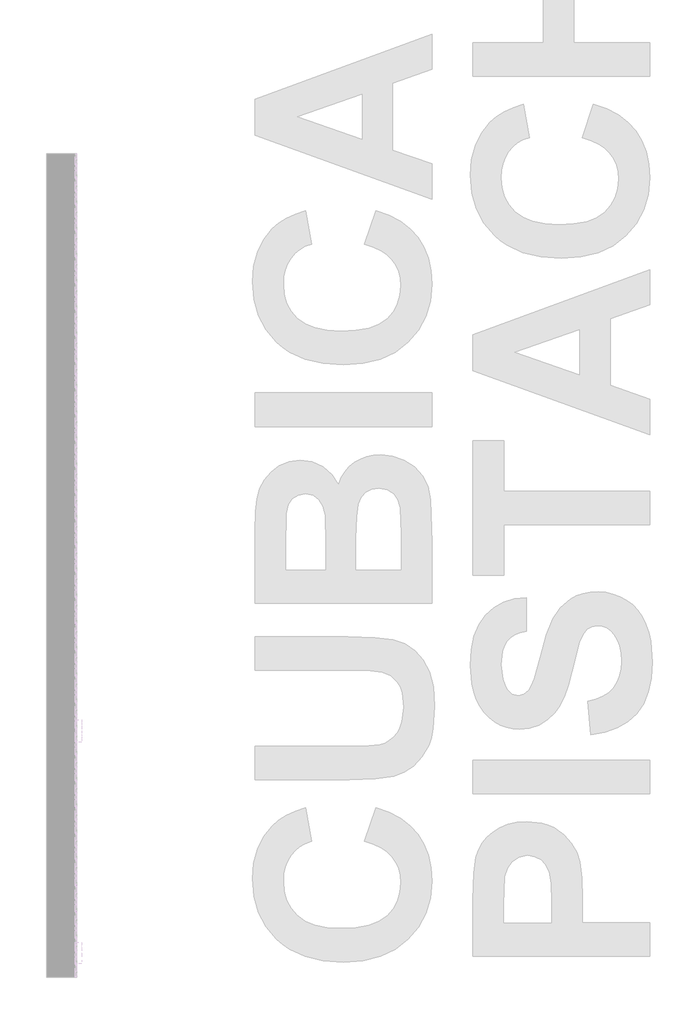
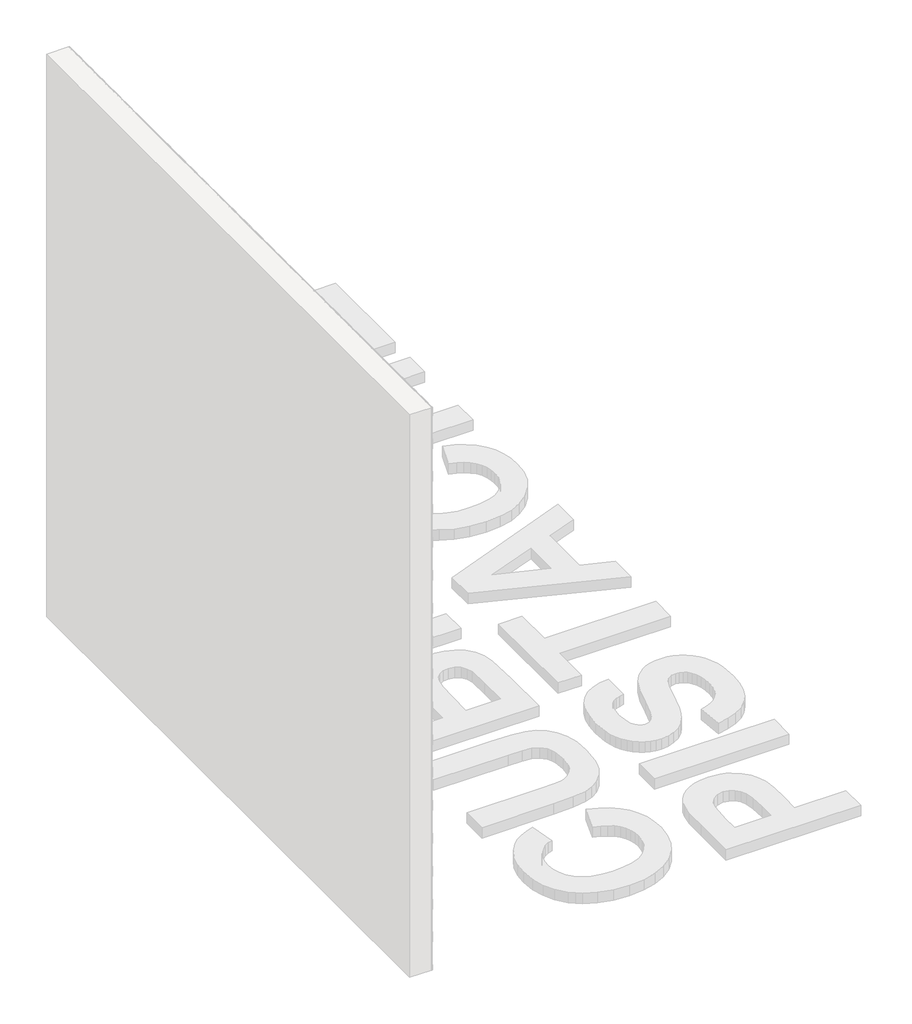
# One storey, part 81 of 121: 145 proxies.
"""IFC4 building model written with IfcOpenShell, lengths in millimetres."""

from ifc_helpers import new_model, si_unit, origin, place, context, project, spatial, transform, mapped, element, save
from components import generic_models_b2b2c5c1, generic_models_9bf73f6f, generic_models_5d175859

model = new_model("IFC4")

# Units and contexts
model_context = context("Model", 3, world=origin())
ifc_project = project(units=[si_unit("LENGTHUNIT", "METRE", prefix="MILLI")], contexts=[model_context])

# Site, building, storey
site = spatial("IfcSite", under=ifc_project)
building = spatial("IfcBuilding", under=site)
storey = spatial("IfcBuildingStorey", under=building, Name="PORTOBELLO - SHOWROOM", Elevation=0.0)

# Proxies
placement = place(None, origin())
generic_models_shape = generic_models_b2b2c5c1(model_context)
element("IfcBuildingElementProxy", 1, Name="PBSHOP - CUBICA PISTACHE 4,8X8,3 : CUBICA PISTACHE - POSIÇÃO 01", ObjectType="PBSHOP - CUBICA PISTACHE 4,8X8,3 : CUBICA PISTACHE - POSIÇÃO 01", at=placement, inside=storey, context=model_context, shape_type="MappedRepresentation", body=[
    mapped(generic_models_shape, transform((150369.5341846, 13841.1993419, 1854.9188494), x_axis=(0.0, 1.0, 0.0), y_axis=(0.0, 0.0, 1.0), z_axis=(1.0, 0.0, 0.0))),
])
element("IfcBuildingElementProxy", 2, Name="PBSHOP - CUBICA PISTACHE 4,8X8,3 : CUBICA PISTACHE - POSIÇÃO 01", ObjectType="PBSHOP - CUBICA PISTACHE 4,8X8,3 : CUBICA PISTACHE - POSIÇÃO 01", at=placement, inside=storey, context=model_context, shape_type="MappedRepresentation", body=[
    mapped(generic_models_shape, transform((150369.5341846, 13932.0386111, 1854.9188494), x_axis=(0.0, 1.0, 0.0), y_axis=(0.0, 0.0, 1.0), z_axis=(1.0, 0.0, 0.0))),
])
element("IfcBuildingElementProxy", 3, Name="PBSHOP - CUBICA PISTACHE 4,8X8,3 : CUBICA PISTACHE - POSIÇÃO 01", ObjectType="PBSHOP - CUBICA PISTACHE 4,8X8,3 : CUBICA PISTACHE - POSIÇÃO 01", at=placement, inside=storey, context=model_context, shape_type="MappedRepresentation", body=[
    mapped(generic_models_shape, transform((150369.5341846, 13069.0655533, 1933.8534878), x_axis=(0.0, 1.0, 0.0), y_axis=(0.0, 0.0, 1.0), z_axis=(1.0, 0.0, 0.0))),
])
element("IfcBuildingElementProxy", 4, Name="PBSHOP - CUBICA PISTACHE 4,8X8,3 : CUBICA PISTACHE - POSIÇÃO 01", ObjectType="PBSHOP - CUBICA PISTACHE 4,8X8,3 : CUBICA PISTACHE - POSIÇÃO 01", at=placement, inside=storey, context=model_context, shape_type="MappedRepresentation", body=[
    mapped(generic_models_shape, transform((150369.5341846, 13159.9048225, 1933.8534878), x_axis=(0.0, 1.0, 0.0), y_axis=(0.0, 0.0, 1.0), z_axis=(1.0, 0.0, 0.0))),
])
element("IfcBuildingElementProxy", 5, Name="PBSHOP - CUBICA PISTACHE 4,8X8,3 : CUBICA PISTACHE - POSIÇÃO 01", ObjectType="PBSHOP - CUBICA PISTACHE 4,8X8,3 : CUBICA PISTACHE - POSIÇÃO 01", at=placement, inside=storey, context=model_context, shape_type="MappedRepresentation", body=[
    mapped(generic_models_shape, transform((150369.5341846, 13250.7440918, 1933.8534878), x_axis=(0.0, 1.0, 0.0), y_axis=(0.0, 0.0, 1.0), z_axis=(1.0, 0.0, 0.0))),
])
element("IfcBuildingElementProxy", 6, Name="PBSHOP - CUBICA PISTACHE 4,8X8,3 : CUBICA PISTACHE - POSIÇÃO 01", ObjectType="PBSHOP - CUBICA PISTACHE 4,8X8,3 : CUBICA PISTACHE - POSIÇÃO 01", at=placement, inside=storey, context=model_context, shape_type="MappedRepresentation", body=[
    mapped(generic_models_shape, transform((150369.5341846, 13341.583361, 1933.8534878), x_axis=(0.0, 1.0, 0.0), y_axis=(0.0, 0.0, 1.0), z_axis=(1.0, 0.0, 0.0))),
])
element("IfcBuildingElementProxy", 7, Name="PBSHOP - CUBICA PISTACHE 4,8X8,3 : CUBICA PISTACHE - POSIÇÃO 01", ObjectType="PBSHOP - CUBICA PISTACHE 4,8X8,3 : CUBICA PISTACHE - POSIÇÃO 01", at=placement, inside=storey, context=model_context, shape_type="MappedRepresentation", body=[
    mapped(generic_models_shape, transform((150369.5341846, 13432.4226303, 1933.8534878), x_axis=(0.0, 1.0, 0.0), y_axis=(0.0, 0.0, 1.0), z_axis=(1.0, 0.0, 0.0))),
])
element("IfcBuildingElementProxy", 8, Name="PBSHOP - CUBICA PISTACHE 4,8X8,3 : CUBICA PISTACHE - POSIÇÃO 01", ObjectType="PBSHOP - CUBICA PISTACHE 4,8X8,3 : CUBICA PISTACHE - POSIÇÃO 01", at=placement, inside=storey, context=model_context, shape_type="MappedRepresentation", body=[
    mapped(generic_models_shape, transform((150369.5341846, 13523.2618995, 1933.8534878), x_axis=(0.0, 1.0, 0.0), y_axis=(0.0, 0.0, 1.0), z_axis=(1.0, 0.0, 0.0))),
])
element("IfcBuildingElementProxy", 9, Name="PBSHOP - CUBICA PISTACHE 4,8X8,3 : CUBICA PISTACHE - POSIÇÃO 01", ObjectType="PBSHOP - CUBICA PISTACHE 4,8X8,3 : CUBICA PISTACHE - POSIÇÃO 01", at=placement, inside=storey, context=model_context, shape_type="MappedRepresentation", body=[
    mapped(generic_models_shape, transform((150369.5341846, 13614.1011688, 1933.8534878), x_axis=(0.0, 1.0, 0.0), y_axis=(0.0, 0.0, 1.0), z_axis=(1.0, 0.0, 0.0))),
])
element("IfcBuildingElementProxy", 10, Name="PBSHOP - CUBICA PISTACHE 4,8X8,3 : CUBICA PISTACHE - POSIÇÃO 01", ObjectType="PBSHOP - CUBICA PISTACHE 4,8X8,3 : CUBICA PISTACHE - POSIÇÃO 01", at=placement, inside=storey, context=model_context, shape_type="MappedRepresentation", body=[
    mapped(generic_models_shape, transform((150369.5341846, 13704.940438, 1933.8534878), x_axis=(0.0, 1.0, 0.0), y_axis=(0.0, 0.0, 1.0), z_axis=(1.0, 0.0, 0.0))),
])
element("IfcBuildingElementProxy", 11, Name="PBSHOP - CUBICA PISTACHE 4,8X8,3 : CUBICA PISTACHE - POSIÇÃO 01", ObjectType="PBSHOP - CUBICA PISTACHE 4,8X8,3 : CUBICA PISTACHE - POSIÇÃO 01", at=placement, inside=storey, context=model_context, shape_type="MappedRepresentation", body=[
    mapped(generic_models_shape, transform((150369.5341846, 13795.7797073, 1933.8534878), x_axis=(0.0, 1.0, 0.0), y_axis=(0.0, 0.0, 1.0), z_axis=(1.0, 0.0, 0.0))),
])
element("IfcBuildingElementProxy", 12, Name="PBSHOP - CUBICA PISTACHE 4,8X8,3 : CUBICA PISTACHE - POSIÇÃO 01", ObjectType="PBSHOP - CUBICA PISTACHE 4,8X8,3 : CUBICA PISTACHE - POSIÇÃO 01", at=placement, inside=storey, context=model_context, shape_type="MappedRepresentation", body=[
    mapped(generic_models_shape, transform((150369.5341846, 13886.6189765, 1933.8534878), x_axis=(0.0, 1.0, 0.0), y_axis=(0.0, 0.0, 1.0), z_axis=(1.0, 0.0, 0.0))),
])
element("IfcBuildingElementProxy", 13, Name="PBSHOP - CUBICA PISTACHE 4,8X8,3 : CUBICA PISTACHE - POSIÇÃO 01", ObjectType="PBSHOP - CUBICA PISTACHE 4,8X8,3 : CUBICA PISTACHE - POSIÇÃO 01", at=placement, inside=storey, context=model_context, shape_type="MappedRepresentation", body=[
    mapped(generic_models_shape, transform((150369.5341846, 13977.4582457, 1933.8534878), x_axis=(0.0, 1.0, 0.0), y_axis=(0.0, 0.0, 1.0), z_axis=(1.0, 0.0, 0.0))),
])
element("IfcBuildingElementProxy", 14, Name="PBSHOP - CUBICA PISTACHE 4,8X8,3 : CUBICA PISTACHE - POSIÇÃO 01", ObjectType="PBSHOP - CUBICA PISTACHE 4,8X8,3 : CUBICA PISTACHE - POSIÇÃO 01", at=placement, inside=storey, context=model_context, shape_type="MappedRepresentation", body=[
    mapped(generic_models_shape, transform((150369.5341846, 13023.6459187, 2012.7881262), x_axis=(0.0, 1.0, 0.0), y_axis=(0.0, 0.0, 1.0), z_axis=(1.0, 0.0, 0.0))),
])
element("IfcBuildingElementProxy", 15, Name="PBSHOP - CUBICA PISTACHE 4,8X8,3 : CUBICA PISTACHE - POSIÇÃO 01", ObjectType="PBSHOP - CUBICA PISTACHE 4,8X8,3 : CUBICA PISTACHE - POSIÇÃO 01", at=placement, inside=storey, context=model_context, shape_type="MappedRepresentation", body=[
    mapped(generic_models_shape, transform((150369.5341846, 13114.4851879, 2012.7881262), x_axis=(0.0, 1.0, 0.0), y_axis=(0.0, 0.0, 1.0), z_axis=(1.0, 0.0, 0.0))),
])
element("IfcBuildingElementProxy", 16, Name="PBSHOP - CUBICA PISTACHE 4,8X8,3 : CUBICA PISTACHE - POSIÇÃO 01", ObjectType="PBSHOP - CUBICA PISTACHE 4,8X8,3 : CUBICA PISTACHE - POSIÇÃO 01", at=placement, inside=storey, context=model_context, shape_type="MappedRepresentation", body=[
    mapped(generic_models_shape, transform((150369.5341846, 13205.3244572, 2012.7881262), x_axis=(0.0, 1.0, 0.0), y_axis=(0.0, 0.0, 1.0), z_axis=(1.0, 0.0, 0.0))),
])
element("IfcBuildingElementProxy", 17, Name="PBSHOP - CUBICA PISTACHE 4,8X8,3 : CUBICA PISTACHE - POSIÇÃO 01", ObjectType="PBSHOP - CUBICA PISTACHE 4,8X8,3 : CUBICA PISTACHE - POSIÇÃO 01", at=placement, inside=storey, context=model_context, shape_type="MappedRepresentation", body=[
    mapped(generic_models_shape, transform((150369.5341846, 13296.1637264, 2012.7881262), x_axis=(0.0, 1.0, 0.0), y_axis=(0.0, 0.0, 1.0), z_axis=(1.0, 0.0, 0.0))),
])
element("IfcBuildingElementProxy", 18, Name="PBSHOP - CUBICA PISTACHE 4,8X8,3 : CUBICA PISTACHE - POSIÇÃO 01", ObjectType="PBSHOP - CUBICA PISTACHE 4,8X8,3 : CUBICA PISTACHE - POSIÇÃO 01", at=placement, inside=storey, context=model_context, shape_type="MappedRepresentation", body=[
    mapped(generic_models_shape, transform((150369.5341846, 13387.0029957, 2012.7881262), x_axis=(0.0, 1.0, 0.0), y_axis=(0.0, 0.0, 1.0), z_axis=(1.0, 0.0, 0.0))),
])
element("IfcBuildingElementProxy", 19, Name="PBSHOP - CUBICA PISTACHE 4,8X8,3 : CUBICA PISTACHE - POSIÇÃO 01", ObjectType="PBSHOP - CUBICA PISTACHE 4,8X8,3 : CUBICA PISTACHE - POSIÇÃO 01", at=placement, inside=storey, context=model_context, shape_type="MappedRepresentation", body=[
    mapped(generic_models_shape, transform((150369.5341846, 13477.8422649, 2012.7881262), x_axis=(0.0, 1.0, 0.0), y_axis=(0.0, 0.0, 1.0), z_axis=(1.0, 0.0, 0.0))),
])
element("IfcBuildingElementProxy", 20, Name="PBSHOP - CUBICA PISTACHE 4,8X8,3 : CUBICA PISTACHE - POSIÇÃO 01", ObjectType="PBSHOP - CUBICA PISTACHE 4,8X8,3 : CUBICA PISTACHE - POSIÇÃO 01", at=placement, inside=storey, context=model_context, shape_type="MappedRepresentation", body=[
    mapped(generic_models_shape, transform((150369.5341846, 13568.6815341, 2012.7881262), x_axis=(0.0, 1.0, 0.0), y_axis=(0.0, 0.0, 1.0), z_axis=(1.0, 0.0, 0.0))),
])
element("IfcBuildingElementProxy", 21, Name="PBSHOP - CUBICA PISTACHE 4,8X8,3 : CUBICA PISTACHE - POSIÇÃO 01", ObjectType="PBSHOP - CUBICA PISTACHE 4,8X8,3 : CUBICA PISTACHE - POSIÇÃO 01", at=placement, inside=storey, context=model_context, shape_type="MappedRepresentation", body=[
    mapped(generic_models_shape, transform((150369.5341846, 13659.5208034, 2012.7881262), x_axis=(0.0, 1.0, 0.0), y_axis=(0.0, 0.0, 1.0), z_axis=(1.0, 0.0, 0.0))),
])
element("IfcBuildingElementProxy", 22, Name="PBSHOP - CUBICA PISTACHE 4,8X8,3 : CUBICA PISTACHE - POSIÇÃO 01", ObjectType="PBSHOP - CUBICA PISTACHE 4,8X8,3 : CUBICA PISTACHE - POSIÇÃO 01", at=placement, inside=storey, context=model_context, shape_type="MappedRepresentation", body=[
    mapped(generic_models_shape, transform((150369.5341846, 13750.3600726, 2012.7881262), x_axis=(0.0, 1.0, 0.0), y_axis=(0.0, 0.0, 1.0), z_axis=(1.0, 0.0, 0.0))),
])
element("IfcBuildingElementProxy", 23, Name="PBSHOP - CUBICA PISTACHE 4,8X8,3 : CUBICA PISTACHE - POSIÇÃO 01", ObjectType="PBSHOP - CUBICA PISTACHE 4,8X8,3 : CUBICA PISTACHE - POSIÇÃO 01", at=placement, inside=storey, context=model_context, shape_type="MappedRepresentation", body=[
    mapped(generic_models_shape, transform((150369.5341846, 13841.1993419, 2012.7881262), x_axis=(0.0, 1.0, 0.0), y_axis=(0.0, 0.0, 1.0), z_axis=(1.0, 0.0, 0.0))),
])
element("IfcBuildingElementProxy", 24, Name="PBSHOP - CUBICA PISTACHE 4,8X8,3 : CUBICA PISTACHE - POSIÇÃO 01", ObjectType="PBSHOP - CUBICA PISTACHE 4,8X8,3 : CUBICA PISTACHE - POSIÇÃO 01", at=placement, inside=storey, context=model_context, shape_type="MappedRepresentation", body=[
    mapped(generic_models_shape, transform((150369.5341846, 13932.0386111, 2012.7881262), x_axis=(0.0, 1.0, 0.0), y_axis=(0.0, 0.0, 1.0), z_axis=(1.0, 0.0, 0.0))),
])
element("IfcBuildingElementProxy", 25, Name="PBSHOP - CUBICA PISTACHE 4,8X8,3 : CUBICA PISTACHE - POSIÇÃO 01", ObjectType="PBSHOP - CUBICA PISTACHE 4,8X8,3 : CUBICA PISTACHE - POSIÇÃO 01", at=placement, inside=storey, context=model_context, shape_type="MappedRepresentation", body=[
    mapped(generic_models_shape, transform((150369.5341846, 13069.0655533, 2091.7227645), x_axis=(0.0, 1.0, 0.0), y_axis=(0.0, 0.0, 1.0), z_axis=(1.0, 0.0, 0.0))),
])
element("IfcBuildingElementProxy", 26, Name="PBSHOP - CUBICA PISTACHE 4,8X8,3 : CUBICA PISTACHE - POSIÇÃO 01", ObjectType="PBSHOP - CUBICA PISTACHE 4,8X8,3 : CUBICA PISTACHE - POSIÇÃO 01", at=placement, inside=storey, context=model_context, shape_type="MappedRepresentation", body=[
    mapped(generic_models_shape, transform((150369.5341846, 13159.9048225, 2091.7227645), x_axis=(0.0, 1.0, 0.0), y_axis=(0.0, 0.0, 1.0), z_axis=(1.0, 0.0, 0.0))),
])
element("IfcBuildingElementProxy", 27, Name="PBSHOP - CUBICA PISTACHE 4,8X8,3 : CUBICA PISTACHE - POSIÇÃO 01", ObjectType="PBSHOP - CUBICA PISTACHE 4,8X8,3 : CUBICA PISTACHE - POSIÇÃO 01", at=placement, inside=storey, context=model_context, shape_type="MappedRepresentation", body=[
    mapped(generic_models_shape, transform((150369.5341846, 13250.7440918, 2091.7227645), x_axis=(0.0, 1.0, 0.0), y_axis=(0.0, 0.0, 1.0), z_axis=(1.0, 0.0, 0.0))),
])
element("IfcBuildingElementProxy", 28, Name="PBSHOP - CUBICA PISTACHE 4,8X8,3 : CUBICA PISTACHE - POSIÇÃO 01", ObjectType="PBSHOP - CUBICA PISTACHE 4,8X8,3 : CUBICA PISTACHE - POSIÇÃO 01", at=placement, inside=storey, context=model_context, shape_type="MappedRepresentation", body=[
    mapped(generic_models_shape, transform((150369.5341846, 13341.583361, 2091.7227645), x_axis=(0.0, 1.0, 0.0), y_axis=(0.0, 0.0, 1.0), z_axis=(1.0, 0.0, 0.0))),
])
element("IfcBuildingElementProxy", 29, Name="PBSHOP - CUBICA PISTACHE 4,8X8,3 : CUBICA PISTACHE - POSIÇÃO 01", ObjectType="PBSHOP - CUBICA PISTACHE 4,8X8,3 : CUBICA PISTACHE - POSIÇÃO 01", at=placement, inside=storey, context=model_context, shape_type="MappedRepresentation", body=[
    mapped(generic_models_shape, transform((150369.5341846, 13432.4226303, 2091.7227645), x_axis=(0.0, 1.0, 0.0), y_axis=(0.0, 0.0, 1.0), z_axis=(1.0, 0.0, 0.0))),
])
element("IfcBuildingElementProxy", 30, Name="PBSHOP - CUBICA PISTACHE 4,8X8,3 : CUBICA PISTACHE - POSIÇÃO 01", ObjectType="PBSHOP - CUBICA PISTACHE 4,8X8,3 : CUBICA PISTACHE - POSIÇÃO 01", at=placement, inside=storey, context=model_context, shape_type="MappedRepresentation", body=[
    mapped(generic_models_shape, transform((150369.5341846, 13523.2618995, 2091.7227645), x_axis=(0.0, 1.0, 0.0), y_axis=(0.0, 0.0, 1.0), z_axis=(1.0, 0.0, 0.0))),
])
element("IfcBuildingElementProxy", 31, Name="PBSHOP - CUBICA PISTACHE 4,8X8,3 : CUBICA PISTACHE - POSIÇÃO 01", ObjectType="PBSHOP - CUBICA PISTACHE 4,8X8,3 : CUBICA PISTACHE - POSIÇÃO 01", at=placement, inside=storey, context=model_context, shape_type="MappedRepresentation", body=[
    mapped(generic_models_shape, transform((150369.5341846, 13614.1011688, 2091.7227645), x_axis=(0.0, 1.0, 0.0), y_axis=(0.0, 0.0, 1.0), z_axis=(1.0, 0.0, 0.0))),
])
element("IfcBuildingElementProxy", 32, Name="PBSHOP - CUBICA PISTACHE 4,8X8,3 : CUBICA PISTACHE - POSIÇÃO 01", ObjectType="PBSHOP - CUBICA PISTACHE 4,8X8,3 : CUBICA PISTACHE - POSIÇÃO 01", at=placement, inside=storey, context=model_context, shape_type="MappedRepresentation", body=[
    mapped(generic_models_shape, transform((150369.5341846, 13704.940438, 2091.7227645), x_axis=(0.0, 1.0, 0.0), y_axis=(0.0, 0.0, 1.0), z_axis=(1.0, 0.0, 0.0))),
])
element("IfcBuildingElementProxy", 33, Name="PBSHOP - CUBICA PISTACHE 4,8X8,3 : CUBICA PISTACHE - POSIÇÃO 01", ObjectType="PBSHOP - CUBICA PISTACHE 4,8X8,3 : CUBICA PISTACHE - POSIÇÃO 01", at=placement, inside=storey, context=model_context, shape_type="MappedRepresentation", body=[
    mapped(generic_models_shape, transform((150369.5341846, 13795.7797073, 2091.7227645), x_axis=(0.0, 1.0, 0.0), y_axis=(0.0, 0.0, 1.0), z_axis=(1.0, 0.0, 0.0))),
])
element("IfcBuildingElementProxy", 34, Name="PBSHOP - CUBICA PISTACHE 4,8X8,3 : CUBICA PISTACHE - POSIÇÃO 01", ObjectType="PBSHOP - CUBICA PISTACHE 4,8X8,3 : CUBICA PISTACHE - POSIÇÃO 01", at=placement, inside=storey, context=model_context, shape_type="MappedRepresentation", body=[
    mapped(generic_models_shape, transform((150369.5341846, 13886.6189765, 2091.7227645), x_axis=(0.0, 1.0, 0.0), y_axis=(0.0, 0.0, 1.0), z_axis=(1.0, 0.0, 0.0))),
])
element("IfcBuildingElementProxy", 35, Name="PBSHOP - CUBICA PISTACHE 4,8X8,3 : CUBICA PISTACHE - POSIÇÃO 01", ObjectType="PBSHOP - CUBICA PISTACHE 4,8X8,3 : CUBICA PISTACHE - POSIÇÃO 01", at=placement, inside=storey, context=model_context, shape_type="MappedRepresentation", body=[
    mapped(generic_models_shape, transform((150369.5341846, 13977.4582457, 2091.7227645), x_axis=(0.0, 1.0, 0.0), y_axis=(0.0, 0.0, 1.0), z_axis=(1.0, 0.0, 0.0))),
])
element("IfcBuildingElementProxy", 36, Name="PBSHOP - CUBICA PISTACHE 4,8X8,3 : CUBICA PISTACHE - POSIÇÃO 01", ObjectType="PBSHOP - CUBICA PISTACHE 4,8X8,3 : CUBICA PISTACHE - POSIÇÃO 01", at=placement, inside=storey, context=model_context, shape_type="MappedRepresentation", body=[
    mapped(generic_models_shape, transform((150369.5341846, 13023.6459187, 2170.6574029), x_axis=(0.0, 1.0, 0.0), y_axis=(0.0, 0.0, 1.0), z_axis=(1.0, 0.0, 0.0))),
])
element("IfcBuildingElementProxy", 37, Name="PBSHOP - CUBICA PISTACHE 4,8X8,3 : CUBICA PISTACHE - POSIÇÃO 01", ObjectType="PBSHOP - CUBICA PISTACHE 4,8X8,3 : CUBICA PISTACHE - POSIÇÃO 01", at=placement, inside=storey, context=model_context, shape_type="MappedRepresentation", body=[
    mapped(generic_models_shape, transform((150369.5341846, 13114.4851879, 2170.6574029), x_axis=(0.0, 1.0, 0.0), y_axis=(0.0, 0.0, 1.0), z_axis=(1.0, 0.0, 0.0))),
])
element("IfcBuildingElementProxy", 38, Name="PBSHOP - CUBICA PISTACHE 4,8X8,3 : CUBICA PISTACHE - POSIÇÃO 01", ObjectType="PBSHOP - CUBICA PISTACHE 4,8X8,3 : CUBICA PISTACHE - POSIÇÃO 01", at=placement, inside=storey, context=model_context, shape_type="MappedRepresentation", body=[
    mapped(generic_models_shape, transform((150369.5341846, 13205.3244572, 2170.6574029), x_axis=(0.0, 1.0, 0.0), y_axis=(0.0, 0.0, 1.0), z_axis=(1.0, 0.0, 0.0))),
])
element("IfcBuildingElementProxy", 39, Name="PBSHOP - CUBICA PISTACHE 4,8X8,3 : CUBICA PISTACHE - POSIÇÃO 01", ObjectType="PBSHOP - CUBICA PISTACHE 4,8X8,3 : CUBICA PISTACHE - POSIÇÃO 01", at=placement, inside=storey, context=model_context, shape_type="MappedRepresentation", body=[
    mapped(generic_models_shape, transform((150369.5341846, 13296.1637264, 2170.6574029), x_axis=(0.0, 1.0, 0.0), y_axis=(0.0, 0.0, 1.0), z_axis=(1.0, 0.0, 0.0))),
])
element("IfcBuildingElementProxy", 40, Name="PBSHOP - CUBICA PISTACHE 4,8X8,3 : CUBICA PISTACHE - POSIÇÃO 01", ObjectType="PBSHOP - CUBICA PISTACHE 4,8X8,3 : CUBICA PISTACHE - POSIÇÃO 01", at=placement, inside=storey, context=model_context, shape_type="MappedRepresentation", body=[
    mapped(generic_models_shape, transform((150369.5341846, 13387.0029957, 2170.6574029), x_axis=(0.0, 1.0, 0.0), y_axis=(0.0, 0.0, 1.0), z_axis=(1.0, 0.0, 0.0))),
])
element("IfcBuildingElementProxy", 41, Name="PBSHOP - CUBICA PISTACHE 4,8X8,3 : CUBICA PISTACHE - POSIÇÃO 01", ObjectType="PBSHOP - CUBICA PISTACHE 4,8X8,3 : CUBICA PISTACHE - POSIÇÃO 01", at=placement, inside=storey, context=model_context, shape_type="MappedRepresentation", body=[
    mapped(generic_models_shape, transform((150369.5341846, 13477.8422649, 2170.6574029), x_axis=(0.0, 1.0, 0.0), y_axis=(0.0, 0.0, 1.0), z_axis=(1.0, 0.0, 0.0))),
])
element("IfcBuildingElementProxy", 42, Name="PBSHOP - CUBICA PISTACHE 4,8X8,3 : CUBICA PISTACHE - POSIÇÃO 01", ObjectType="PBSHOP - CUBICA PISTACHE 4,8X8,3 : CUBICA PISTACHE - POSIÇÃO 01", at=placement, inside=storey, context=model_context, shape_type="MappedRepresentation", body=[
    mapped(generic_models_shape, transform((150369.5341846, 13568.6815341, 2170.6574029), x_axis=(0.0, 1.0, 0.0), y_axis=(0.0, 0.0, 1.0), z_axis=(1.0, 0.0, 0.0))),
])
element("IfcBuildingElementProxy", 43, Name="PBSHOP - CUBICA PISTACHE 4,8X8,3 : CUBICA PISTACHE - POSIÇÃO 01", ObjectType="PBSHOP - CUBICA PISTACHE 4,8X8,3 : CUBICA PISTACHE - POSIÇÃO 01", at=placement, inside=storey, context=model_context, shape_type="MappedRepresentation", body=[
    mapped(generic_models_shape, transform((150369.5341846, 13659.5208034, 2170.6574029), x_axis=(0.0, 1.0, 0.0), y_axis=(0.0, 0.0, 1.0), z_axis=(1.0, 0.0, 0.0))),
])
element("IfcBuildingElementProxy", 44, Name="PBSHOP - CUBICA PISTACHE 4,8X8,3 : CUBICA PISTACHE - POSIÇÃO 01", ObjectType="PBSHOP - CUBICA PISTACHE 4,8X8,3 : CUBICA PISTACHE - POSIÇÃO 01", at=placement, inside=storey, context=model_context, shape_type="MappedRepresentation", body=[
    mapped(generic_models_shape, transform((150369.5341846, 13750.3600726, 2170.6574029), x_axis=(0.0, 1.0, 0.0), y_axis=(0.0, 0.0, 1.0), z_axis=(1.0, 0.0, 0.0))),
])
element("IfcBuildingElementProxy", 45, Name="PBSHOP - CUBICA PISTACHE 4,8X8,3 : CUBICA PISTACHE - POSIÇÃO 01", ObjectType="PBSHOP - CUBICA PISTACHE 4,8X8,3 : CUBICA PISTACHE - POSIÇÃO 01", at=placement, inside=storey, context=model_context, shape_type="MappedRepresentation", body=[
    mapped(generic_models_shape, transform((150369.5341846, 13841.1993419, 2170.6574029), x_axis=(0.0, 1.0, 0.0), y_axis=(0.0, 0.0, 1.0), z_axis=(1.0, 0.0, 0.0))),
])
element("IfcBuildingElementProxy", 46, Name="PBSHOP - CUBICA PISTACHE 4,8X8,3 : CUBICA PISTACHE - POSIÇÃO 01", ObjectType="PBSHOP - CUBICA PISTACHE 4,8X8,3 : CUBICA PISTACHE - POSIÇÃO 01", at=placement, inside=storey, context=model_context, shape_type="MappedRepresentation", body=[
    mapped(generic_models_shape, transform((150369.5341846, 13932.0386111, 2170.6574029), x_axis=(0.0, 1.0, 0.0), y_axis=(0.0, 0.0, 1.0), z_axis=(1.0, 0.0, 0.0))),
])
generic_models_2_shape = generic_models_9bf73f6f(model_context)
element("IfcBuildingElementProxy", 47, Name="PBSHOP - CUBICA PISTACHE 4,8X8,3 : CUBICA PISTACHE - POSIÇÃO 03", ObjectType="PBSHOP - CUBICA PISTACHE 4,8X8,3 : CUBICA PISTACHE - POSIÇÃO 03", at=placement, inside=storey, context=model_context, shape_type="MappedRepresentation", body=[
    mapped(generic_models_2_shape, transform((150369.5341846, 13000.9382605, 1815.4103198), x_axis=(0.0, 1.0, 0.0), y_axis=(0.0, 0.0, 1.0), z_axis=(1.0, 0.0, 0.0))),
])
element("IfcBuildingElementProxy", 48, Name="PBSHOP - CUBICA PISTACHE 4,8X8,3 : CUBICA PISTACHE - POSIÇÃO 03", ObjectType="PBSHOP - CUBICA PISTACHE 4,8X8,3 : CUBICA PISTACHE - POSIÇÃO 03", at=placement, inside=storey, context=model_context, shape_type="MappedRepresentation", body=[
    mapped(generic_models_2_shape, transform((150369.5341846, 13091.7775298, 1815.4103198), x_axis=(0.0, 1.0, 0.0), y_axis=(0.0, 0.0, 1.0), z_axis=(1.0, 0.0, 0.0))),
])
element("IfcBuildingElementProxy", 49, Name="PBSHOP - CUBICA PISTACHE 4,8X8,3 : CUBICA PISTACHE - POSIÇÃO 03", ObjectType="PBSHOP - CUBICA PISTACHE 4,8X8,3 : CUBICA PISTACHE - POSIÇÃO 03", at=placement, inside=storey, context=model_context, shape_type="MappedRepresentation", body=[
    mapped(generic_models_2_shape, transform((150369.5341846, 13182.616799, 1815.4103198), x_axis=(0.0, 1.0, 0.0), y_axis=(0.0, 0.0, 1.0), z_axis=(1.0, 0.0, 0.0))),
])
element("IfcBuildingElementProxy", 50, Name="PBSHOP - CUBICA PISTACHE 4,8X8,3 : CUBICA PISTACHE - POSIÇÃO 03", ObjectType="PBSHOP - CUBICA PISTACHE 4,8X8,3 : CUBICA PISTACHE - POSIÇÃO 03", at=placement, inside=storey, context=model_context, shape_type="MappedRepresentation", body=[
    mapped(generic_models_2_shape, transform((150369.5341846, 13273.4560683, 1815.4103198), x_axis=(0.0, 1.0, 0.0), y_axis=(0.0, 0.0, 1.0), z_axis=(1.0, 0.0, 0.0))),
])
element("IfcBuildingElementProxy", 51, Name="PBSHOP - CUBICA PISTACHE 4,8X8,3 : CUBICA PISTACHE - POSIÇÃO 03", ObjectType="PBSHOP - CUBICA PISTACHE 4,8X8,3 : CUBICA PISTACHE - POSIÇÃO 03", at=placement, inside=storey, context=model_context, shape_type="MappedRepresentation", body=[
    mapped(generic_models_2_shape, transform((150369.5341846, 13364.2953375, 1815.4103198), x_axis=(0.0, 1.0, 0.0), y_axis=(0.0, 0.0, 1.0), z_axis=(1.0, 0.0, 0.0))),
])
element("IfcBuildingElementProxy", 52, Name="PBSHOP - CUBICA PISTACHE 4,8X8,3 : CUBICA PISTACHE - POSIÇÃO 03", ObjectType="PBSHOP - CUBICA PISTACHE 4,8X8,3 : CUBICA PISTACHE - POSIÇÃO 03", at=placement, inside=storey, context=model_context, shape_type="MappedRepresentation", body=[
    mapped(generic_models_2_shape, transform((150369.5341846, 13455.1346068, 1815.4103198), x_axis=(0.0, 1.0, 0.0), y_axis=(0.0, 0.0, 1.0), z_axis=(1.0, 0.0, 0.0))),
])
element("IfcBuildingElementProxy", 53, Name="PBSHOP - CUBICA PISTACHE 4,8X8,3 : CUBICA PISTACHE - POSIÇÃO 03", ObjectType="PBSHOP - CUBICA PISTACHE 4,8X8,3 : CUBICA PISTACHE - POSIÇÃO 03", at=placement, inside=storey, context=model_context, shape_type="MappedRepresentation", body=[
    mapped(generic_models_2_shape, transform((150369.5341846, 13545.973876, 1815.4103198), x_axis=(0.0, 1.0, 0.0), y_axis=(0.0, 0.0, 1.0), z_axis=(1.0, 0.0, 0.0))),
])
element("IfcBuildingElementProxy", 54, Name="PBSHOP - CUBICA PISTACHE 4,8X8,3 : CUBICA PISTACHE - POSIÇÃO 03", ObjectType="PBSHOP - CUBICA PISTACHE 4,8X8,3 : CUBICA PISTACHE - POSIÇÃO 03", at=placement, inside=storey, context=model_context, shape_type="MappedRepresentation", body=[
    mapped(generic_models_2_shape, transform((150369.5341846, 13636.8131452, 1815.4103198), x_axis=(0.0, 1.0, 0.0), y_axis=(0.0, 0.0, 1.0), z_axis=(1.0, 0.0, 0.0))),
])
element("IfcBuildingElementProxy", 55, Name="PBSHOP - CUBICA PISTACHE 4,8X8,3 : CUBICA PISTACHE - POSIÇÃO 03", ObjectType="PBSHOP - CUBICA PISTACHE 4,8X8,3 : CUBICA PISTACHE - POSIÇÃO 03", at=placement, inside=storey, context=model_context, shape_type="MappedRepresentation", body=[
    mapped(generic_models_2_shape, transform((150369.5341846, 13727.6524145, 1815.4103198), x_axis=(0.0, 1.0, 0.0), y_axis=(0.0, 0.0, 1.0), z_axis=(1.0, 0.0, 0.0))),
])
element("IfcBuildingElementProxy", 56, Name="PBSHOP - CUBICA PISTACHE 4,8X8,3 : CUBICA PISTACHE - POSIÇÃO 03", ObjectType="PBSHOP - CUBICA PISTACHE 4,8X8,3 : CUBICA PISTACHE - POSIÇÃO 03", at=placement, inside=storey, context=model_context, shape_type="MappedRepresentation", body=[
    mapped(generic_models_2_shape, transform((150369.5341846, 13818.4916837, 1815.4103198), x_axis=(0.0, 1.0, 0.0), y_axis=(0.0, 0.0, 1.0), z_axis=(1.0, 0.0, 0.0))),
])
element("IfcBuildingElementProxy", 57, Name="PBSHOP - CUBICA PISTACHE 4,8X8,3 : CUBICA PISTACHE - POSIÇÃO 03", ObjectType="PBSHOP - CUBICA PISTACHE 4,8X8,3 : CUBICA PISTACHE - POSIÇÃO 03", at=placement, inside=storey, context=model_context, shape_type="MappedRepresentation", body=[
    mapped(generic_models_2_shape, transform((150369.5341846, 13909.330953, 1815.4103198), x_axis=(0.0, 1.0, 0.0), y_axis=(0.0, 0.0, 1.0), z_axis=(1.0, 0.0, 0.0))),
])
element("IfcBuildingElementProxy", 58, Name="PBSHOP - CUBICA PISTACHE 4,8X8,3 : CUBICA PISTACHE - POSIÇÃO 03", ObjectType="PBSHOP - CUBICA PISTACHE 4,8X8,3 : CUBICA PISTACHE - POSIÇÃO 03", at=placement, inside=storey, context=model_context, shape_type="MappedRepresentation", body=[
    mapped(generic_models_2_shape, transform((150369.5341846, 13046.3578952, 1894.3449582), x_axis=(0.0, 1.0, 0.0), y_axis=(0.0, 0.0, 1.0), z_axis=(1.0, 0.0, 0.0))),
])
element("IfcBuildingElementProxy", 59, Name="PBSHOP - CUBICA PISTACHE 4,8X8,3 : CUBICA PISTACHE - POSIÇÃO 03", ObjectType="PBSHOP - CUBICA PISTACHE 4,8X8,3 : CUBICA PISTACHE - POSIÇÃO 03", at=placement, inside=storey, context=model_context, shape_type="MappedRepresentation", body=[
    mapped(generic_models_2_shape, transform((150369.5341846, 13137.1971644, 1894.3449582), x_axis=(0.0, 1.0, 0.0), y_axis=(0.0, 0.0, 1.0), z_axis=(1.0, 0.0, 0.0))),
])
element("IfcBuildingElementProxy", 60, Name="PBSHOP - CUBICA PISTACHE 4,8X8,3 : CUBICA PISTACHE - POSIÇÃO 03", ObjectType="PBSHOP - CUBICA PISTACHE 4,8X8,3 : CUBICA PISTACHE - POSIÇÃO 03", at=placement, inside=storey, context=model_context, shape_type="MappedRepresentation", body=[
    mapped(generic_models_2_shape, transform((150369.5341846, 13228.0364336, 1894.3449582), x_axis=(0.0, 1.0, 0.0), y_axis=(0.0, 0.0, 1.0), z_axis=(1.0, 0.0, 0.0))),
])
element("IfcBuildingElementProxy", 61, Name="PBSHOP - CUBICA PISTACHE 4,8X8,3 : CUBICA PISTACHE - POSIÇÃO 03", ObjectType="PBSHOP - CUBICA PISTACHE 4,8X8,3 : CUBICA PISTACHE - POSIÇÃO 03", at=placement, inside=storey, context=model_context, shape_type="MappedRepresentation", body=[
    mapped(generic_models_2_shape, transform((150369.5341846, 13318.8757029, 1894.3449582), x_axis=(0.0, 1.0, 0.0), y_axis=(0.0, 0.0, 1.0), z_axis=(1.0, 0.0, 0.0))),
])
element("IfcBuildingElementProxy", 62, Name="PBSHOP - CUBICA PISTACHE 4,8X8,3 : CUBICA PISTACHE - POSIÇÃO 03", ObjectType="PBSHOP - CUBICA PISTACHE 4,8X8,3 : CUBICA PISTACHE - POSIÇÃO 03", at=placement, inside=storey, context=model_context, shape_type="MappedRepresentation", body=[
    mapped(generic_models_2_shape, transform((150369.5341846, 13409.7149721, 1894.3449582), x_axis=(0.0, 1.0, 0.0), y_axis=(0.0, 0.0, 1.0), z_axis=(1.0, 0.0, 0.0))),
])
element("IfcBuildingElementProxy", 63, Name="PBSHOP - CUBICA PISTACHE 4,8X8,3 : CUBICA PISTACHE - POSIÇÃO 03", ObjectType="PBSHOP - CUBICA PISTACHE 4,8X8,3 : CUBICA PISTACHE - POSIÇÃO 03", at=placement, inside=storey, context=model_context, shape_type="MappedRepresentation", body=[
    mapped(generic_models_2_shape, transform((150369.5341846, 13500.5542414, 1894.3449582), x_axis=(0.0, 1.0, 0.0), y_axis=(0.0, 0.0, 1.0), z_axis=(1.0, 0.0, 0.0))),
])
element("IfcBuildingElementProxy", 64, Name="PBSHOP - CUBICA PISTACHE 4,8X8,3 : CUBICA PISTACHE - POSIÇÃO 03", ObjectType="PBSHOP - CUBICA PISTACHE 4,8X8,3 : CUBICA PISTACHE - POSIÇÃO 03", at=placement, inside=storey, context=model_context, shape_type="MappedRepresentation", body=[
    mapped(generic_models_2_shape, transform((150369.5341846, 13591.3935106, 1894.3449582), x_axis=(0.0, 1.0, 0.0), y_axis=(0.0, 0.0, 1.0), z_axis=(1.0, 0.0, 0.0))),
])
element("IfcBuildingElementProxy", 65, Name="PBSHOP - CUBICA PISTACHE 4,8X8,3 : CUBICA PISTACHE - POSIÇÃO 03", ObjectType="PBSHOP - CUBICA PISTACHE 4,8X8,3 : CUBICA PISTACHE - POSIÇÃO 03", at=placement, inside=storey, context=model_context, shape_type="MappedRepresentation", body=[
    mapped(generic_models_2_shape, transform((150369.5341846, 13682.2327799, 1894.3449582), x_axis=(0.0, 1.0, 0.0), y_axis=(0.0, 0.0, 1.0), z_axis=(1.0, 0.0, 0.0))),
])
element("IfcBuildingElementProxy", 66, Name="PBSHOP - CUBICA PISTACHE 4,8X8,3 : CUBICA PISTACHE - POSIÇÃO 03", ObjectType="PBSHOP - CUBICA PISTACHE 4,8X8,3 : CUBICA PISTACHE - POSIÇÃO 03", at=placement, inside=storey, context=model_context, shape_type="MappedRepresentation", body=[
    mapped(generic_models_2_shape, transform((150369.5341846, 13773.0720491, 1894.3449582), x_axis=(0.0, 1.0, 0.0), y_axis=(0.0, 0.0, 1.0), z_axis=(1.0, 0.0, 0.0))),
])
element("IfcBuildingElementProxy", 67, Name="PBSHOP - CUBICA PISTACHE 4,8X8,3 : CUBICA PISTACHE - POSIÇÃO 03", ObjectType="PBSHOP - CUBICA PISTACHE 4,8X8,3 : CUBICA PISTACHE - POSIÇÃO 03", at=placement, inside=storey, context=model_context, shape_type="MappedRepresentation", body=[
    mapped(generic_models_2_shape, transform((150369.5341846, 13863.9113184, 1894.3449582), x_axis=(0.0, 1.0, 0.0), y_axis=(0.0, 0.0, 1.0), z_axis=(1.0, 0.0, 0.0))),
])
element("IfcBuildingElementProxy", 68, Name="PBSHOP - CUBICA PISTACHE 4,8X8,3 : CUBICA PISTACHE - POSIÇÃO 03", ObjectType="PBSHOP - CUBICA PISTACHE 4,8X8,3 : CUBICA PISTACHE - POSIÇÃO 03", at=placement, inside=storey, context=model_context, shape_type="MappedRepresentation", body=[
    mapped(generic_models_2_shape, transform((150369.5341846, 13954.7505876, 1894.3449582), x_axis=(0.0, 1.0, 0.0), y_axis=(0.0, 0.0, 1.0), z_axis=(1.0, 0.0, 0.0))),
])
element("IfcBuildingElementProxy", 69, Name="PBSHOP - CUBICA PISTACHE 4,8X8,3 : CUBICA PISTACHE - POSIÇÃO 03", ObjectType="PBSHOP - CUBICA PISTACHE 4,8X8,3 : CUBICA PISTACHE - POSIÇÃO 03", at=placement, inside=storey, context=model_context, shape_type="MappedRepresentation", body=[
    mapped(generic_models_2_shape, transform((150369.5341846, 13000.9382605, 1973.2795966), x_axis=(0.0, 1.0, 0.0), y_axis=(0.0, 0.0, 1.0), z_axis=(1.0, 0.0, 0.0))),
])
element("IfcBuildingElementProxy", 70, Name="PBSHOP - CUBICA PISTACHE 4,8X8,3 : CUBICA PISTACHE - POSIÇÃO 03", ObjectType="PBSHOP - CUBICA PISTACHE 4,8X8,3 : CUBICA PISTACHE - POSIÇÃO 03", at=placement, inside=storey, context=model_context, shape_type="MappedRepresentation", body=[
    mapped(generic_models_2_shape, transform((150369.5341846, 13091.7775298, 1973.2795966), x_axis=(0.0, 1.0, 0.0), y_axis=(0.0, 0.0, 1.0), z_axis=(1.0, 0.0, 0.0))),
])
element("IfcBuildingElementProxy", 71, Name="PBSHOP - CUBICA PISTACHE 4,8X8,3 : CUBICA PISTACHE - POSIÇÃO 03", ObjectType="PBSHOP - CUBICA PISTACHE 4,8X8,3 : CUBICA PISTACHE - POSIÇÃO 03", at=placement, inside=storey, context=model_context, shape_type="MappedRepresentation", body=[
    mapped(generic_models_2_shape, transform((150369.5341846, 13182.616799, 1973.2795966), x_axis=(0.0, 1.0, 0.0), y_axis=(0.0, 0.0, 1.0), z_axis=(1.0, 0.0, 0.0))),
])
element("IfcBuildingElementProxy", 72, Name="PBSHOP - CUBICA PISTACHE 4,8X8,3 : CUBICA PISTACHE - POSIÇÃO 03", ObjectType="PBSHOP - CUBICA PISTACHE 4,8X8,3 : CUBICA PISTACHE - POSIÇÃO 03", at=placement, inside=storey, context=model_context, shape_type="MappedRepresentation", body=[
    mapped(generic_models_2_shape, transform((150369.5341846, 13273.4560683, 1973.2795966), x_axis=(0.0, 1.0, 0.0), y_axis=(0.0, 0.0, 1.0), z_axis=(1.0, 0.0, 0.0))),
])
element("IfcBuildingElementProxy", 73, Name="PBSHOP - CUBICA PISTACHE 4,8X8,3 : CUBICA PISTACHE - POSIÇÃO 03", ObjectType="PBSHOP - CUBICA PISTACHE 4,8X8,3 : CUBICA PISTACHE - POSIÇÃO 03", at=placement, inside=storey, context=model_context, shape_type="MappedRepresentation", body=[
    mapped(generic_models_2_shape, transform((150369.5341846, 13364.2953375, 1973.2795966), x_axis=(0.0, 1.0, 0.0), y_axis=(0.0, 0.0, 1.0), z_axis=(1.0, 0.0, 0.0))),
])
element("IfcBuildingElementProxy", 74, Name="PBSHOP - CUBICA PISTACHE 4,8X8,3 : CUBICA PISTACHE - POSIÇÃO 03", ObjectType="PBSHOP - CUBICA PISTACHE 4,8X8,3 : CUBICA PISTACHE - POSIÇÃO 03", at=placement, inside=storey, context=model_context, shape_type="MappedRepresentation", body=[
    mapped(generic_models_2_shape, transform((150369.5341846, 13455.1346068, 1973.2795966), x_axis=(0.0, 1.0, 0.0), y_axis=(0.0, 0.0, 1.0), z_axis=(1.0, 0.0, 0.0))),
])
element("IfcBuildingElementProxy", 75, Name="PBSHOP - CUBICA PISTACHE 4,8X8,3 : CUBICA PISTACHE - POSIÇÃO 03", ObjectType="PBSHOP - CUBICA PISTACHE 4,8X8,3 : CUBICA PISTACHE - POSIÇÃO 03", at=placement, inside=storey, context=model_context, shape_type="MappedRepresentation", body=[
    mapped(generic_models_2_shape, transform((150369.5341846, 13545.973876, 1973.2795966), x_axis=(0.0, 1.0, 0.0), y_axis=(0.0, 0.0, 1.0), z_axis=(1.0, 0.0, 0.0))),
])
element("IfcBuildingElementProxy", 76, Name="PBSHOP - CUBICA PISTACHE 4,8X8,3 : CUBICA PISTACHE - POSIÇÃO 03", ObjectType="PBSHOP - CUBICA PISTACHE 4,8X8,3 : CUBICA PISTACHE - POSIÇÃO 03", at=placement, inside=storey, context=model_context, shape_type="MappedRepresentation", body=[
    mapped(generic_models_2_shape, transform((150369.5341846, 13636.8131452, 1973.2795966), x_axis=(0.0, 1.0, 0.0), y_axis=(0.0, 0.0, 1.0), z_axis=(1.0, 0.0, 0.0))),
])
element("IfcBuildingElementProxy", 77, Name="PBSHOP - CUBICA PISTACHE 4,8X8,3 : CUBICA PISTACHE - POSIÇÃO 03", ObjectType="PBSHOP - CUBICA PISTACHE 4,8X8,3 : CUBICA PISTACHE - POSIÇÃO 03", at=placement, inside=storey, context=model_context, shape_type="MappedRepresentation", body=[
    mapped(generic_models_2_shape, transform((150369.5341846, 13727.6524145, 1973.2795966), x_axis=(0.0, 1.0, 0.0), y_axis=(0.0, 0.0, 1.0), z_axis=(1.0, 0.0, 0.0))),
])
element("IfcBuildingElementProxy", 78, Name="PBSHOP - CUBICA PISTACHE 4,8X8,3 : CUBICA PISTACHE - POSIÇÃO 03", ObjectType="PBSHOP - CUBICA PISTACHE 4,8X8,3 : CUBICA PISTACHE - POSIÇÃO 03", at=placement, inside=storey, context=model_context, shape_type="MappedRepresentation", body=[
    mapped(generic_models_2_shape, transform((150369.5341846, 13818.4916837, 1973.2795966), x_axis=(0.0, 1.0, 0.0), y_axis=(0.0, 0.0, 1.0), z_axis=(1.0, 0.0, 0.0))),
])
element("IfcBuildingElementProxy", 79, Name="PBSHOP - CUBICA PISTACHE 4,8X8,3 : CUBICA PISTACHE - POSIÇÃO 03", ObjectType="PBSHOP - CUBICA PISTACHE 4,8X8,3 : CUBICA PISTACHE - POSIÇÃO 03", at=placement, inside=storey, context=model_context, shape_type="MappedRepresentation", body=[
    mapped(generic_models_2_shape, transform((150369.5341846, 13909.330953, 1973.2795966), x_axis=(0.0, 1.0, 0.0), y_axis=(0.0, 0.0, 1.0), z_axis=(1.0, 0.0, 0.0))),
])
element("IfcBuildingElementProxy", 80, Name="PBSHOP - CUBICA PISTACHE 4,8X8,3 : CUBICA PISTACHE - POSIÇÃO 03", ObjectType="PBSHOP - CUBICA PISTACHE 4,8X8,3 : CUBICA PISTACHE - POSIÇÃO 03", at=placement, inside=storey, context=model_context, shape_type="MappedRepresentation", body=[
    mapped(generic_models_2_shape, transform((150369.5341846, 13046.3578952, 2052.2142349), x_axis=(0.0, 1.0, 0.0), y_axis=(0.0, 0.0, 1.0), z_axis=(1.0, 0.0, 0.0))),
])
element("IfcBuildingElementProxy", 81, Name="PBSHOP - CUBICA PISTACHE 4,8X8,3 : CUBICA PISTACHE - POSIÇÃO 03", ObjectType="PBSHOP - CUBICA PISTACHE 4,8X8,3 : CUBICA PISTACHE - POSIÇÃO 03", at=placement, inside=storey, context=model_context, shape_type="MappedRepresentation", body=[
    mapped(generic_models_2_shape, transform((150369.5341846, 13137.1971644, 2052.2142349), x_axis=(0.0, 1.0, 0.0), y_axis=(0.0, 0.0, 1.0), z_axis=(1.0, 0.0, 0.0))),
])
element("IfcBuildingElementProxy", 82, Name="PBSHOP - CUBICA PISTACHE 4,8X8,3 : CUBICA PISTACHE - POSIÇÃO 03", ObjectType="PBSHOP - CUBICA PISTACHE 4,8X8,3 : CUBICA PISTACHE - POSIÇÃO 03", at=placement, inside=storey, context=model_context, shape_type="MappedRepresentation", body=[
    mapped(generic_models_2_shape, transform((150369.5341846, 13228.0364336, 2052.2142349), x_axis=(0.0, 1.0, 0.0), y_axis=(0.0, 0.0, 1.0), z_axis=(1.0, 0.0, 0.0))),
])
element("IfcBuildingElementProxy", 83, Name="PBSHOP - CUBICA PISTACHE 4,8X8,3 : CUBICA PISTACHE - POSIÇÃO 03", ObjectType="PBSHOP - CUBICA PISTACHE 4,8X8,3 : CUBICA PISTACHE - POSIÇÃO 03", at=placement, inside=storey, context=model_context, shape_type="MappedRepresentation", body=[
    mapped(generic_models_2_shape, transform((150369.5341846, 13318.8757029, 2052.2142349), x_axis=(0.0, 1.0, 0.0), y_axis=(0.0, 0.0, 1.0), z_axis=(1.0, 0.0, 0.0))),
])
element("IfcBuildingElementProxy", 84, Name="PBSHOP - CUBICA PISTACHE 4,8X8,3 : CUBICA PISTACHE - POSIÇÃO 03", ObjectType="PBSHOP - CUBICA PISTACHE 4,8X8,3 : CUBICA PISTACHE - POSIÇÃO 03", at=placement, inside=storey, context=model_context, shape_type="MappedRepresentation", body=[
    mapped(generic_models_2_shape, transform((150369.5341846, 13409.7149721, 2052.2142349), x_axis=(0.0, 1.0, 0.0), y_axis=(0.0, 0.0, 1.0), z_axis=(1.0, 0.0, 0.0))),
])
element("IfcBuildingElementProxy", 85, Name="PBSHOP - CUBICA PISTACHE 4,8X8,3 : CUBICA PISTACHE - POSIÇÃO 03", ObjectType="PBSHOP - CUBICA PISTACHE 4,8X8,3 : CUBICA PISTACHE - POSIÇÃO 03", at=placement, inside=storey, context=model_context, shape_type="MappedRepresentation", body=[
    mapped(generic_models_2_shape, transform((150369.5341846, 13500.5542414, 2052.2142349), x_axis=(0.0, 1.0, 0.0), y_axis=(0.0, 0.0, 1.0), z_axis=(1.0, 0.0, 0.0))),
])
element("IfcBuildingElementProxy", 86, Name="PBSHOP - CUBICA PISTACHE 4,8X8,3 : CUBICA PISTACHE - POSIÇÃO 03", ObjectType="PBSHOP - CUBICA PISTACHE 4,8X8,3 : CUBICA PISTACHE - POSIÇÃO 03", at=placement, inside=storey, context=model_context, shape_type="MappedRepresentation", body=[
    mapped(generic_models_2_shape, transform((150369.5341846, 13591.3935106, 2052.2142349), x_axis=(0.0, 1.0, 0.0), y_axis=(0.0, 0.0, 1.0), z_axis=(1.0, 0.0, 0.0))),
])
element("IfcBuildingElementProxy", 87, Name="PBSHOP - CUBICA PISTACHE 4,8X8,3 : CUBICA PISTACHE - POSIÇÃO 03", ObjectType="PBSHOP - CUBICA PISTACHE 4,8X8,3 : CUBICA PISTACHE - POSIÇÃO 03", at=placement, inside=storey, context=model_context, shape_type="MappedRepresentation", body=[
    mapped(generic_models_2_shape, transform((150369.5341846, 13682.2327799, 2052.2142349), x_axis=(0.0, 1.0, 0.0), y_axis=(0.0, 0.0, 1.0), z_axis=(1.0, 0.0, 0.0))),
])
element("IfcBuildingElementProxy", 88, Name="PBSHOP - CUBICA PISTACHE 4,8X8,3 : CUBICA PISTACHE - POSIÇÃO 03", ObjectType="PBSHOP - CUBICA PISTACHE 4,8X8,3 : CUBICA PISTACHE - POSIÇÃO 03", at=placement, inside=storey, context=model_context, shape_type="MappedRepresentation", body=[
    mapped(generic_models_2_shape, transform((150369.5341846, 13773.0720491, 2052.2142349), x_axis=(0.0, 1.0, 0.0), y_axis=(0.0, 0.0, 1.0), z_axis=(1.0, 0.0, 0.0))),
])
element("IfcBuildingElementProxy", 89, Name="PBSHOP - CUBICA PISTACHE 4,8X8,3 : CUBICA PISTACHE - POSIÇÃO 03", ObjectType="PBSHOP - CUBICA PISTACHE 4,8X8,3 : CUBICA PISTACHE - POSIÇÃO 03", at=placement, inside=storey, context=model_context, shape_type="MappedRepresentation", body=[
    mapped(generic_models_2_shape, transform((150369.5341846, 13863.9113184, 2052.2142349), x_axis=(0.0, 1.0, 0.0), y_axis=(0.0, 0.0, 1.0), z_axis=(1.0, 0.0, 0.0))),
])
element("IfcBuildingElementProxy", 90, Name="PBSHOP - CUBICA PISTACHE 4,8X8,3 : CUBICA PISTACHE - POSIÇÃO 03", ObjectType="PBSHOP - CUBICA PISTACHE 4,8X8,3 : CUBICA PISTACHE - POSIÇÃO 03", at=placement, inside=storey, context=model_context, shape_type="MappedRepresentation", body=[
    mapped(generic_models_2_shape, transform((150369.5341846, 13954.7505876, 2052.2142349), x_axis=(0.0, 1.0, 0.0), y_axis=(0.0, 0.0, 1.0), z_axis=(1.0, 0.0, 0.0))),
])
element("IfcBuildingElementProxy", 91, Name="PBSHOP - CUBICA PISTACHE 4,8X8,3 : CUBICA PISTACHE - POSIÇÃO 03", ObjectType="PBSHOP - CUBICA PISTACHE 4,8X8,3 : CUBICA PISTACHE - POSIÇÃO 03", at=placement, inside=storey, context=model_context, shape_type="MappedRepresentation", body=[
    mapped(generic_models_2_shape, transform((150369.5341846, 13000.9382605, 2131.1488733), x_axis=(0.0, 1.0, 0.0), y_axis=(0.0, 0.0, 1.0), z_axis=(1.0, 0.0, 0.0))),
])
element("IfcBuildingElementProxy", 92, Name="PBSHOP - CUBICA PISTACHE 4,8X8,3 : CUBICA PISTACHE - POSIÇÃO 03", ObjectType="PBSHOP - CUBICA PISTACHE 4,8X8,3 : CUBICA PISTACHE - POSIÇÃO 03", at=placement, inside=storey, context=model_context, shape_type="MappedRepresentation", body=[
    mapped(generic_models_2_shape, transform((150369.5341846, 13091.7775298, 2131.1488733), x_axis=(0.0, 1.0, 0.0), y_axis=(0.0, 0.0, 1.0), z_axis=(1.0, 0.0, 0.0))),
])
element("IfcBuildingElementProxy", 93, Name="PBSHOP - CUBICA PISTACHE 4,8X8,3 : CUBICA PISTACHE - POSIÇÃO 03", ObjectType="PBSHOP - CUBICA PISTACHE 4,8X8,3 : CUBICA PISTACHE - POSIÇÃO 03", at=placement, inside=storey, context=model_context, shape_type="MappedRepresentation", body=[
    mapped(generic_models_2_shape, transform((150369.5341846, 13182.616799, 2131.1488733), x_axis=(0.0, 1.0, 0.0), y_axis=(0.0, 0.0, 1.0), z_axis=(1.0, 0.0, 0.0))),
])
element("IfcBuildingElementProxy", 94, Name="PBSHOP - CUBICA PISTACHE 4,8X8,3 : CUBICA PISTACHE - POSIÇÃO 03", ObjectType="PBSHOP - CUBICA PISTACHE 4,8X8,3 : CUBICA PISTACHE - POSIÇÃO 03", at=placement, inside=storey, context=model_context, shape_type="MappedRepresentation", body=[
    mapped(generic_models_2_shape, transform((150369.5341846, 13273.4560683, 2131.1488733), x_axis=(0.0, 1.0, 0.0), y_axis=(0.0, 0.0, 1.0), z_axis=(1.0, 0.0, 0.0))),
])
element("IfcBuildingElementProxy", 95, Name="PBSHOP - CUBICA PISTACHE 4,8X8,3 : CUBICA PISTACHE - POSIÇÃO 03", ObjectType="PBSHOP - CUBICA PISTACHE 4,8X8,3 : CUBICA PISTACHE - POSIÇÃO 03", at=placement, inside=storey, context=model_context, shape_type="MappedRepresentation", body=[
    mapped(generic_models_2_shape, transform((150369.5341846, 13364.2953375, 2131.1488733), x_axis=(0.0, 1.0, 0.0), y_axis=(0.0, 0.0, 1.0), z_axis=(1.0, 0.0, 0.0))),
])
element("IfcBuildingElementProxy", 96, Name="PBSHOP - CUBICA PISTACHE 4,8X8,3 : CUBICA PISTACHE - POSIÇÃO 03", ObjectType="PBSHOP - CUBICA PISTACHE 4,8X8,3 : CUBICA PISTACHE - POSIÇÃO 03", at=placement, inside=storey, context=model_context, shape_type="MappedRepresentation", body=[
    mapped(generic_models_2_shape, transform((150369.5341846, 13455.1346068, 2131.1488733), x_axis=(0.0, 1.0, 0.0), y_axis=(0.0, 0.0, 1.0), z_axis=(1.0, 0.0, 0.0))),
])
element("IfcBuildingElementProxy", 97, Name="PBSHOP - CUBICA PISTACHE 4,8X8,3 : CUBICA PISTACHE - POSIÇÃO 03", ObjectType="PBSHOP - CUBICA PISTACHE 4,8X8,3 : CUBICA PISTACHE - POSIÇÃO 03", at=placement, inside=storey, context=model_context, shape_type="MappedRepresentation", body=[
    mapped(generic_models_2_shape, transform((150369.5341846, 13545.973876, 2131.1488733), x_axis=(0.0, 1.0, 0.0), y_axis=(0.0, 0.0, 1.0), z_axis=(1.0, 0.0, 0.0))),
])
element("IfcBuildingElementProxy", 98, Name="PBSHOP - CUBICA PISTACHE 4,8X8,3 : CUBICA PISTACHE - POSIÇÃO 03", ObjectType="PBSHOP - CUBICA PISTACHE 4,8X8,3 : CUBICA PISTACHE - POSIÇÃO 03", at=placement, inside=storey, context=model_context, shape_type="MappedRepresentation", body=[
    mapped(generic_models_2_shape, transform((150369.5341846, 13636.8131452, 2131.1488733), x_axis=(0.0, 1.0, 0.0), y_axis=(0.0, 0.0, 1.0), z_axis=(1.0, 0.0, 0.0))),
])
element("IfcBuildingElementProxy", 99, Name="PBSHOP - CUBICA PISTACHE 4,8X8,3 : CUBICA PISTACHE - POSIÇÃO 03", ObjectType="PBSHOP - CUBICA PISTACHE 4,8X8,3 : CUBICA PISTACHE - POSIÇÃO 03", at=placement, inside=storey, context=model_context, shape_type="MappedRepresentation", body=[
    mapped(generic_models_2_shape, transform((150369.5341846, 13727.6524145, 2131.1488733), x_axis=(0.0, 1.0, 0.0), y_axis=(0.0, 0.0, 1.0), z_axis=(1.0, 0.0, 0.0))),
])
generic_models_3_shape = generic_models_5d175859(model_context)
element("IfcBuildingElementProxy", 100, Name="PBSHOP - CUBICA PISTACHE 4,8X8,3 : CUBICA PISTACHE - POSIÇÃO 01", ObjectType="PBSHOP - CUBICA PISTACHE 4,8X8,3 : CUBICA PISTACHE - POSIÇÃO 01", at=placement, inside=storey, context=model_context, shape_type="MappedRepresentation", body=[
    mapped(generic_models_3_shape, transform((150369.5341846, 13886.6232948, 1854.9188494), x_axis=(0.0, -1.0, 0.0), y_axis=(0.0, 0.0, -1.0), z_axis=(1.0, 0.0, 0.0))),
])
element("IfcBuildingElementProxy", 101, Name="PBSHOP - CUBICA PISTACHE 4,8X8,3 : CUBICA PISTACHE - POSIÇÃO 01", ObjectType="PBSHOP - CUBICA PISTACHE 4,8X8,3 : CUBICA PISTACHE - POSIÇÃO 01", at=placement, inside=storey, context=model_context, shape_type="MappedRepresentation", body=[
    mapped(generic_models_3_shape, transform((150369.5341846, 13977.4625641, 1854.9188494), x_axis=(0.0, -1.0, 0.0), y_axis=(0.0, 0.0, -1.0), z_axis=(1.0, 0.0, 0.0))),
])
element("IfcBuildingElementProxy", 102, Name="PBSHOP - CUBICA PISTACHE 4,8X8,3 : CUBICA PISTACHE - POSIÇÃO 01", ObjectType="PBSHOP - CUBICA PISTACHE 4,8X8,3 : CUBICA PISTACHE - POSIÇÃO 01", at=placement, inside=storey, context=model_context, shape_type="MappedRepresentation", body=[
    mapped(generic_models_3_shape, transform((150369.5341846, 13023.650237, 1933.8534878), x_axis=(0.0, -1.0, 0.0), y_axis=(0.0, 0.0, -1.0), z_axis=(1.0, 0.0, 0.0))),
])
element("IfcBuildingElementProxy", 103, Name="PBSHOP - CUBICA PISTACHE 4,8X8,3 : CUBICA PISTACHE - POSIÇÃO 01", ObjectType="PBSHOP - CUBICA PISTACHE 4,8X8,3 : CUBICA PISTACHE - POSIÇÃO 01", at=placement, inside=storey, context=model_context, shape_type="MappedRepresentation", body=[
    mapped(generic_models_3_shape, transform((150369.5341846, 13114.4895063, 1933.8534878), x_axis=(0.0, -1.0, 0.0), y_axis=(0.0, 0.0, -1.0), z_axis=(1.0, 0.0, 0.0))),
])
element("IfcBuildingElementProxy", 104, Name="PBSHOP - CUBICA PISTACHE 4,8X8,3 : CUBICA PISTACHE - POSIÇÃO 01", ObjectType="PBSHOP - CUBICA PISTACHE 4,8X8,3 : CUBICA PISTACHE - POSIÇÃO 01", at=placement, inside=storey, context=model_context, shape_type="MappedRepresentation", body=[
    mapped(generic_models_3_shape, transform((150369.5341846, 13205.3287755, 1933.8534878), x_axis=(0.0, -1.0, 0.0), y_axis=(0.0, 0.0, -1.0), z_axis=(1.0, 0.0, 0.0))),
])
element("IfcBuildingElementProxy", 105, Name="PBSHOP - CUBICA PISTACHE 4,8X8,3 : CUBICA PISTACHE - POSIÇÃO 01", ObjectType="PBSHOP - CUBICA PISTACHE 4,8X8,3 : CUBICA PISTACHE - POSIÇÃO 01", at=placement, inside=storey, context=model_context, shape_type="MappedRepresentation", body=[
    mapped(generic_models_3_shape, transform((150369.5341846, 13296.1680447, 1933.8534878), x_axis=(0.0, -1.0, 0.0), y_axis=(0.0, 0.0, -1.0), z_axis=(1.0, 0.0, 0.0))),
])
element("IfcBuildingElementProxy", 106, Name="PBSHOP - CUBICA PISTACHE 4,8X8,3 : CUBICA PISTACHE - POSIÇÃO 01", ObjectType="PBSHOP - CUBICA PISTACHE 4,8X8,3 : CUBICA PISTACHE - POSIÇÃO 01", at=placement, inside=storey, context=model_context, shape_type="MappedRepresentation", body=[
    mapped(generic_models_3_shape, transform((150369.5341846, 13387.007314, 1933.8534878), x_axis=(0.0, -1.0, 0.0), y_axis=(0.0, 0.0, -1.0), z_axis=(1.0, 0.0, 0.0))),
])
element("IfcBuildingElementProxy", 107, Name="PBSHOP - CUBICA PISTACHE 4,8X8,3 : CUBICA PISTACHE - POSIÇÃO 01", ObjectType="PBSHOP - CUBICA PISTACHE 4,8X8,3 : CUBICA PISTACHE - POSIÇÃO 01", at=placement, inside=storey, context=model_context, shape_type="MappedRepresentation", body=[
    mapped(generic_models_3_shape, transform((150369.5341846, 13477.8465832, 1933.8534878), x_axis=(0.0, -1.0, 0.0), y_axis=(0.0, 0.0, -1.0), z_axis=(1.0, 0.0, 0.0))),
])
element("IfcBuildingElementProxy", 108, Name="PBSHOP - CUBICA PISTACHE 4,8X8,3 : CUBICA PISTACHE - POSIÇÃO 01", ObjectType="PBSHOP - CUBICA PISTACHE 4,8X8,3 : CUBICA PISTACHE - POSIÇÃO 01", at=placement, inside=storey, context=model_context, shape_type="MappedRepresentation", body=[
    mapped(generic_models_3_shape, transform((150369.5341846, 13568.6858525, 1933.8534878), x_axis=(0.0, -1.0, 0.0), y_axis=(0.0, 0.0, -1.0), z_axis=(1.0, 0.0, 0.0))),
])
element("IfcBuildingElementProxy", 109, Name="PBSHOP - CUBICA PISTACHE 4,8X8,3 : CUBICA PISTACHE - POSIÇÃO 01", ObjectType="PBSHOP - CUBICA PISTACHE 4,8X8,3 : CUBICA PISTACHE - POSIÇÃO 01", at=placement, inside=storey, context=model_context, shape_type="MappedRepresentation", body=[
    mapped(generic_models_3_shape, transform((150369.5341846, 13659.5251217, 1933.8534878), x_axis=(0.0, -1.0, 0.0), y_axis=(0.0, 0.0, -1.0), z_axis=(1.0, 0.0, 0.0))),
])
element("IfcBuildingElementProxy", 110, Name="PBSHOP - CUBICA PISTACHE 4,8X8,3 : CUBICA PISTACHE - POSIÇÃO 01", ObjectType="PBSHOP - CUBICA PISTACHE 4,8X8,3 : CUBICA PISTACHE - POSIÇÃO 01", at=placement, inside=storey, context=model_context, shape_type="MappedRepresentation", body=[
    mapped(generic_models_3_shape, transform((150369.5341846, 13750.364391, 1933.8534878), x_axis=(0.0, -1.0, 0.0), y_axis=(0.0, 0.0, -1.0), z_axis=(1.0, 0.0, 0.0))),
])
element("IfcBuildingElementProxy", 111, Name="PBSHOP - CUBICA PISTACHE 4,8X8,3 : CUBICA PISTACHE - POSIÇÃO 01", ObjectType="PBSHOP - CUBICA PISTACHE 4,8X8,3 : CUBICA PISTACHE - POSIÇÃO 01", at=placement, inside=storey, context=model_context, shape_type="MappedRepresentation", body=[
    mapped(generic_models_3_shape, transform((150369.5341846, 13841.2036602, 1933.8534878), x_axis=(0.0, -1.0, 0.0), y_axis=(0.0, 0.0, -1.0), z_axis=(1.0, 0.0, 0.0))),
])
element("IfcBuildingElementProxy", 112, Name="PBSHOP - CUBICA PISTACHE 4,8X8,3 : CUBICA PISTACHE - POSIÇÃO 01", ObjectType="PBSHOP - CUBICA PISTACHE 4,8X8,3 : CUBICA PISTACHE - POSIÇÃO 01", at=placement, inside=storey, context=model_context, shape_type="MappedRepresentation", body=[
    mapped(generic_models_3_shape, transform((150369.5341846, 13932.0429295, 1933.8534878), x_axis=(0.0, -1.0, 0.0), y_axis=(0.0, 0.0, -1.0), z_axis=(1.0, 0.0, 0.0))),
])
element("IfcBuildingElementProxy", 113, Name="PBSHOP - CUBICA PISTACHE 4,8X8,3 : CUBICA PISTACHE - POSIÇÃO 01", ObjectType="PBSHOP - CUBICA PISTACHE 4,8X8,3 : CUBICA PISTACHE - POSIÇÃO 01", at=placement, inside=storey, context=model_context, shape_type="MappedRepresentation", body=[
    mapped(generic_models_3_shape, transform((150369.5341846, 13069.0698716, 2012.7881262), x_axis=(0.0, -1.0, 0.0), y_axis=(0.0, 0.0, -1.0), z_axis=(1.0, 0.0, 0.0))),
])
element("IfcBuildingElementProxy", 114, Name="PBSHOP - CUBICA PISTACHE 4,8X8,3 : CUBICA PISTACHE - POSIÇÃO 01", ObjectType="PBSHOP - CUBICA PISTACHE 4,8X8,3 : CUBICA PISTACHE - POSIÇÃO 01", at=placement, inside=storey, context=model_context, shape_type="MappedRepresentation", body=[
    mapped(generic_models_3_shape, transform((150369.5341846, 13159.9091409, 2012.7881262), x_axis=(0.0, -1.0, 0.0), y_axis=(0.0, 0.0, -1.0), z_axis=(1.0, 0.0, 0.0))),
])
element("IfcBuildingElementProxy", 115, Name="PBSHOP - CUBICA PISTACHE 4,8X8,3 : CUBICA PISTACHE - POSIÇÃO 01", ObjectType="PBSHOP - CUBICA PISTACHE 4,8X8,3 : CUBICA PISTACHE - POSIÇÃO 01", at=placement, inside=storey, context=model_context, shape_type="MappedRepresentation", body=[
    mapped(generic_models_3_shape, transform((150369.5341846, 13250.7484101, 2012.7881262), x_axis=(0.0, -1.0, 0.0), y_axis=(0.0, 0.0, -1.0), z_axis=(1.0, 0.0, 0.0))),
])
element("IfcBuildingElementProxy", 116, Name="PBSHOP - CUBICA PISTACHE 4,8X8,3 : CUBICA PISTACHE - POSIÇÃO 01", ObjectType="PBSHOP - CUBICA PISTACHE 4,8X8,3 : CUBICA PISTACHE - POSIÇÃO 01", at=placement, inside=storey, context=model_context, shape_type="MappedRepresentation", body=[
    mapped(generic_models_3_shape, transform((150369.5341846, 13341.5876794, 2012.7881262), x_axis=(0.0, -1.0, 0.0), y_axis=(0.0, 0.0, -1.0), z_axis=(1.0, 0.0, 0.0))),
])
element("IfcBuildingElementProxy", 117, Name="PBSHOP - CUBICA PISTACHE 4,8X8,3 : CUBICA PISTACHE - POSIÇÃO 01", ObjectType="PBSHOP - CUBICA PISTACHE 4,8X8,3 : CUBICA PISTACHE - POSIÇÃO 01", at=placement, inside=storey, context=model_context, shape_type="MappedRepresentation", body=[
    mapped(generic_models_3_shape, transform((150369.5341846, 13432.4269486, 2012.7881262), x_axis=(0.0, -1.0, 0.0), y_axis=(0.0, 0.0, -1.0), z_axis=(1.0, 0.0, 0.0))),
])
element("IfcBuildingElementProxy", 118, Name="PBSHOP - CUBICA PISTACHE 4,8X8,3 : CUBICA PISTACHE - POSIÇÃO 01", ObjectType="PBSHOP - CUBICA PISTACHE 4,8X8,3 : CUBICA PISTACHE - POSIÇÃO 01", at=placement, inside=storey, context=model_context, shape_type="MappedRepresentation", body=[
    mapped(generic_models_3_shape, transform((150369.5341846, 13523.2662179, 2012.7881262), x_axis=(0.0, -1.0, 0.0), y_axis=(0.0, 0.0, -1.0), z_axis=(1.0, 0.0, 0.0))),
])
element("IfcBuildingElementProxy", 119, Name="PBSHOP - CUBICA PISTACHE 4,8X8,3 : CUBICA PISTACHE - POSIÇÃO 01", ObjectType="PBSHOP - CUBICA PISTACHE 4,8X8,3 : CUBICA PISTACHE - POSIÇÃO 01", at=placement, inside=storey, context=model_context, shape_type="MappedRepresentation", body=[
    mapped(generic_models_3_shape, transform((150369.5341846, 13614.1054871, 2012.7881262), x_axis=(0.0, -1.0, 0.0), y_axis=(0.0, 0.0, -1.0), z_axis=(1.0, 0.0, 0.0))),
])
element("IfcBuildingElementProxy", 120, Name="PBSHOP - CUBICA PISTACHE 4,8X8,3 : CUBICA PISTACHE - POSIÇÃO 01", ObjectType="PBSHOP - CUBICA PISTACHE 4,8X8,3 : CUBICA PISTACHE - POSIÇÃO 01", at=placement, inside=storey, context=model_context, shape_type="MappedRepresentation", body=[
    mapped(generic_models_3_shape, transform((150369.5341846, 13704.9447563, 2012.7881262), x_axis=(0.0, -1.0, 0.0), y_axis=(0.0, 0.0, -1.0), z_axis=(1.0, 0.0, 0.0))),
])
element("IfcBuildingElementProxy", 121, Name="PBSHOP - CUBICA PISTACHE 4,8X8,3 : CUBICA PISTACHE - POSIÇÃO 01", ObjectType="PBSHOP - CUBICA PISTACHE 4,8X8,3 : CUBICA PISTACHE - POSIÇÃO 01", at=placement, inside=storey, context=model_context, shape_type="MappedRepresentation", body=[
    mapped(generic_models_3_shape, transform((150369.5341846, 13795.7840256, 2012.7881262), x_axis=(0.0, -1.0, 0.0), y_axis=(0.0, 0.0, -1.0), z_axis=(1.0, 0.0, 0.0))),
])
element("IfcBuildingElementProxy", 122, Name="PBSHOP - CUBICA PISTACHE 4,8X8,3 : CUBICA PISTACHE - POSIÇÃO 01", ObjectType="PBSHOP - CUBICA PISTACHE 4,8X8,3 : CUBICA PISTACHE - POSIÇÃO 01", at=placement, inside=storey, context=model_context, shape_type="MappedRepresentation", body=[
    mapped(generic_models_3_shape, transform((150369.5341846, 13886.6232948, 2012.7881262), x_axis=(0.0, -1.0, 0.0), y_axis=(0.0, 0.0, -1.0), z_axis=(1.0, 0.0, 0.0))),
])
element("IfcBuildingElementProxy", 123, Name="PBSHOP - CUBICA PISTACHE 4,8X8,3 : CUBICA PISTACHE - POSIÇÃO 01", ObjectType="PBSHOP - CUBICA PISTACHE 4,8X8,3 : CUBICA PISTACHE - POSIÇÃO 01", at=placement, inside=storey, context=model_context, shape_type="MappedRepresentation", body=[
    mapped(generic_models_3_shape, transform((150369.5341846, 13977.4625641, 2012.7881262), x_axis=(0.0, -1.0, 0.0), y_axis=(0.0, 0.0, -1.0), z_axis=(1.0, 0.0, 0.0))),
])
element("IfcBuildingElementProxy", 124, Name="PBSHOP - CUBICA PISTACHE 4,8X8,3 : CUBICA PISTACHE - POSIÇÃO 01", ObjectType="PBSHOP - CUBICA PISTACHE 4,8X8,3 : CUBICA PISTACHE - POSIÇÃO 01", at=placement, inside=storey, context=model_context, shape_type="MappedRepresentation", body=[
    mapped(generic_models_3_shape, transform((150369.5341846, 13023.650237, 2091.7227645), x_axis=(0.0, -1.0, 0.0), y_axis=(0.0, 0.0, -1.0), z_axis=(1.0, 0.0, 0.0))),
])
element("IfcBuildingElementProxy", 125, Name="PBSHOP - CUBICA PISTACHE 4,8X8,3 : CUBICA PISTACHE - POSIÇÃO 01", ObjectType="PBSHOP - CUBICA PISTACHE 4,8X8,3 : CUBICA PISTACHE - POSIÇÃO 01", at=placement, inside=storey, context=model_context, shape_type="MappedRepresentation", body=[
    mapped(generic_models_3_shape, transform((150369.5341846, 13114.4895063, 2091.7227645), x_axis=(0.0, -1.0, 0.0), y_axis=(0.0, 0.0, -1.0), z_axis=(1.0, 0.0, 0.0))),
])
element("IfcBuildingElementProxy", 126, Name="PBSHOP - CUBICA PISTACHE 4,8X8,3 : CUBICA PISTACHE - POSIÇÃO 01", ObjectType="PBSHOP - CUBICA PISTACHE 4,8X8,3 : CUBICA PISTACHE - POSIÇÃO 01", at=placement, inside=storey, context=model_context, shape_type="MappedRepresentation", body=[
    mapped(generic_models_3_shape, transform((150369.5341846, 13205.3287755, 2091.7227645), x_axis=(0.0, -1.0, 0.0), y_axis=(0.0, 0.0, -1.0), z_axis=(1.0, 0.0, 0.0))),
])
element("IfcBuildingElementProxy", 127, Name="PBSHOP - CUBICA PISTACHE 4,8X8,3 : CUBICA PISTACHE - POSIÇÃO 01", ObjectType="PBSHOP - CUBICA PISTACHE 4,8X8,3 : CUBICA PISTACHE - POSIÇÃO 01", at=placement, inside=storey, context=model_context, shape_type="MappedRepresentation", body=[
    mapped(generic_models_3_shape, transform((150369.5341846, 13296.1680447, 2091.7227645), x_axis=(0.0, -1.0, 0.0), y_axis=(0.0, 0.0, -1.0), z_axis=(1.0, 0.0, 0.0))),
])
element("IfcBuildingElementProxy", 128, Name="PBSHOP - CUBICA PISTACHE 4,8X8,3 : CUBICA PISTACHE - POSIÇÃO 01", ObjectType="PBSHOP - CUBICA PISTACHE 4,8X8,3 : CUBICA PISTACHE - POSIÇÃO 01", at=placement, inside=storey, context=model_context, shape_type="MappedRepresentation", body=[
    mapped(generic_models_3_shape, transform((150369.5341846, 13387.007314, 2091.7227645), x_axis=(0.0, -1.0, 0.0), y_axis=(0.0, 0.0, -1.0), z_axis=(1.0, 0.0, 0.0))),
])
element("IfcBuildingElementProxy", 129, Name="PBSHOP - CUBICA PISTACHE 4,8X8,3 : CUBICA PISTACHE - POSIÇÃO 01", ObjectType="PBSHOP - CUBICA PISTACHE 4,8X8,3 : CUBICA PISTACHE - POSIÇÃO 01", at=placement, inside=storey, context=model_context, shape_type="MappedRepresentation", body=[
    mapped(generic_models_3_shape, transform((150369.5341846, 13477.8465832, 2091.7227645), x_axis=(0.0, -1.0, 0.0), y_axis=(0.0, 0.0, -1.0), z_axis=(1.0, 0.0, 0.0))),
])
element("IfcBuildingElementProxy", 130, Name="PBSHOP - CUBICA PISTACHE 4,8X8,3 : CUBICA PISTACHE - POSIÇÃO 01", ObjectType="PBSHOP - CUBICA PISTACHE 4,8X8,3 : CUBICA PISTACHE - POSIÇÃO 01", at=placement, inside=storey, context=model_context, shape_type="MappedRepresentation", body=[
    mapped(generic_models_3_shape, transform((150369.5341846, 13568.6858525, 2091.7227645), x_axis=(0.0, -1.0, 0.0), y_axis=(0.0, 0.0, -1.0), z_axis=(1.0, 0.0, 0.0))),
])
element("IfcBuildingElementProxy", 131, Name="PBSHOP - CUBICA PISTACHE 4,8X8,3 : CUBICA PISTACHE - POSIÇÃO 01", ObjectType="PBSHOP - CUBICA PISTACHE 4,8X8,3 : CUBICA PISTACHE - POSIÇÃO 01", at=placement, inside=storey, context=model_context, shape_type="MappedRepresentation", body=[
    mapped(generic_models_3_shape, transform((150369.5341846, 13659.5251217, 2091.7227645), x_axis=(0.0, -1.0, 0.0), y_axis=(0.0, 0.0, -1.0), z_axis=(1.0, 0.0, 0.0))),
])
element("IfcBuildingElementProxy", 132, Name="PBSHOP - CUBICA PISTACHE 4,8X8,3 : CUBICA PISTACHE - POSIÇÃO 01", ObjectType="PBSHOP - CUBICA PISTACHE 4,8X8,3 : CUBICA PISTACHE - POSIÇÃO 01", at=placement, inside=storey, context=model_context, shape_type="MappedRepresentation", body=[
    mapped(generic_models_3_shape, transform((150369.5341846, 13750.364391, 2091.7227645), x_axis=(0.0, -1.0, 0.0), y_axis=(0.0, 0.0, -1.0), z_axis=(1.0, 0.0, 0.0))),
])
element("IfcBuildingElementProxy", 133, Name="PBSHOP - CUBICA PISTACHE 4,8X8,3 : CUBICA PISTACHE - POSIÇÃO 01", ObjectType="PBSHOP - CUBICA PISTACHE 4,8X8,3 : CUBICA PISTACHE - POSIÇÃO 01", at=placement, inside=storey, context=model_context, shape_type="MappedRepresentation", body=[
    mapped(generic_models_3_shape, transform((150369.5341846, 13841.2036602, 2091.7227645), x_axis=(0.0, -1.0, 0.0), y_axis=(0.0, 0.0, -1.0), z_axis=(1.0, 0.0, 0.0))),
])
element("IfcBuildingElementProxy", 134, Name="PBSHOP - CUBICA PISTACHE 4,8X8,3 : CUBICA PISTACHE - POSIÇÃO 01", ObjectType="PBSHOP - CUBICA PISTACHE 4,8X8,3 : CUBICA PISTACHE - POSIÇÃO 01", at=placement, inside=storey, context=model_context, shape_type="MappedRepresentation", body=[
    mapped(generic_models_3_shape, transform((150369.5341846, 13932.0429295, 2091.7227645), x_axis=(0.0, -1.0, 0.0), y_axis=(0.0, 0.0, -1.0), z_axis=(1.0, 0.0, 0.0))),
])
element("IfcBuildingElementProxy", 135, Name="PBSHOP - CUBICA PISTACHE 4,8X8,3 : CUBICA PISTACHE - POSIÇÃO 01", ObjectType="PBSHOP - CUBICA PISTACHE 4,8X8,3 : CUBICA PISTACHE - POSIÇÃO 01", at=placement, inside=storey, context=model_context, shape_type="MappedRepresentation", body=[
    mapped(generic_models_3_shape, transform((150369.5341846, 13069.0698716, 2170.6574029), x_axis=(0.0, -1.0, 0.0), y_axis=(0.0, 0.0, -1.0), z_axis=(1.0, 0.0, 0.0))),
])
element("IfcBuildingElementProxy", 136, Name="PBSHOP - CUBICA PISTACHE 4,8X8,3 : CUBICA PISTACHE - POSIÇÃO 01", ObjectType="PBSHOP - CUBICA PISTACHE 4,8X8,3 : CUBICA PISTACHE - POSIÇÃO 01", at=placement, inside=storey, context=model_context, shape_type="MappedRepresentation", body=[
    mapped(generic_models_3_shape, transform((150369.5341846, 13159.9091409, 2170.6574029), x_axis=(0.0, -1.0, 0.0), y_axis=(0.0, 0.0, -1.0), z_axis=(1.0, 0.0, 0.0))),
])
element("IfcBuildingElementProxy", 137, Name="PBSHOP - CUBICA PISTACHE 4,8X8,3 : CUBICA PISTACHE - POSIÇÃO 01", ObjectType="PBSHOP - CUBICA PISTACHE 4,8X8,3 : CUBICA PISTACHE - POSIÇÃO 01", at=placement, inside=storey, context=model_context, shape_type="MappedRepresentation", body=[
    mapped(generic_models_3_shape, transform((150369.5341846, 13250.7484101, 2170.6574029), x_axis=(0.0, -1.0, 0.0), y_axis=(0.0, 0.0, -1.0), z_axis=(1.0, 0.0, 0.0))),
])
element("IfcBuildingElementProxy", 138, Name="PBSHOP - CUBICA PISTACHE 4,8X8,3 : CUBICA PISTACHE - POSIÇÃO 01", ObjectType="PBSHOP - CUBICA PISTACHE 4,8X8,3 : CUBICA PISTACHE - POSIÇÃO 01", at=placement, inside=storey, context=model_context, shape_type="MappedRepresentation", body=[
    mapped(generic_models_3_shape, transform((150369.5341846, 13341.5876794, 2170.6574029), x_axis=(0.0, -1.0, 0.0), y_axis=(0.0, 0.0, -1.0), z_axis=(1.0, 0.0, 0.0))),
])
element("IfcBuildingElementProxy", 139, Name="PBSHOP - CUBICA PISTACHE 4,8X8,3 : CUBICA PISTACHE - POSIÇÃO 01", ObjectType="PBSHOP - CUBICA PISTACHE 4,8X8,3 : CUBICA PISTACHE - POSIÇÃO 01", at=placement, inside=storey, context=model_context, shape_type="MappedRepresentation", body=[
    mapped(generic_models_3_shape, transform((150369.5341846, 13432.4269486, 2170.6574029), x_axis=(0.0, -1.0, 0.0), y_axis=(0.0, 0.0, -1.0), z_axis=(1.0, 0.0, 0.0))),
])
element("IfcBuildingElementProxy", 140, Name="PBSHOP - CUBICA PISTACHE 4,8X8,3 : CUBICA PISTACHE - POSIÇÃO 01", ObjectType="PBSHOP - CUBICA PISTACHE 4,8X8,3 : CUBICA PISTACHE - POSIÇÃO 01", at=placement, inside=storey, context=model_context, shape_type="MappedRepresentation", body=[
    mapped(generic_models_3_shape, transform((150369.5341846, 13523.2662179, 2170.6574029), x_axis=(0.0, -1.0, 0.0), y_axis=(0.0, 0.0, -1.0), z_axis=(1.0, 0.0, 0.0))),
])
element("IfcBuildingElementProxy", 141, Name="PBSHOP - CUBICA PISTACHE 4,8X8,3 : CUBICA PISTACHE - POSIÇÃO 01", ObjectType="PBSHOP - CUBICA PISTACHE 4,8X8,3 : CUBICA PISTACHE - POSIÇÃO 01", at=placement, inside=storey, context=model_context, shape_type="MappedRepresentation", body=[
    mapped(generic_models_3_shape, transform((150369.5341846, 13614.1054871, 2170.6574029), x_axis=(0.0, -1.0, 0.0), y_axis=(0.0, 0.0, -1.0), z_axis=(1.0, 0.0, 0.0))),
])
element("IfcBuildingElementProxy", 142, Name="PBSHOP - CUBICA PISTACHE 4,8X8,3 : CUBICA PISTACHE - POSIÇÃO 01", ObjectType="PBSHOP - CUBICA PISTACHE 4,8X8,3 : CUBICA PISTACHE - POSIÇÃO 01", at=placement, inside=storey, context=model_context, shape_type="MappedRepresentation", body=[
    mapped(generic_models_3_shape, transform((150369.5341846, 13704.9447563, 2170.6574029), x_axis=(0.0, -1.0, 0.0), y_axis=(0.0, 0.0, -1.0), z_axis=(1.0, 0.0, 0.0))),
])
element("IfcBuildingElementProxy", 143, Name="PBSHOP - CUBICA PISTACHE 4,8X8,3 : CUBICA PISTACHE - POSIÇÃO 01", ObjectType="PBSHOP - CUBICA PISTACHE 4,8X8,3 : CUBICA PISTACHE - POSIÇÃO 01", at=placement, inside=storey, context=model_context, shape_type="MappedRepresentation", body=[
    mapped(generic_models_3_shape, transform((150369.5341846, 13795.7840256, 2170.6574029), x_axis=(0.0, -1.0, 0.0), y_axis=(0.0, 0.0, -1.0), z_axis=(1.0, 0.0, 0.0))),
])
element("IfcBuildingElementProxy", 144, Name="PBSHOP - CUBICA PISTACHE 4,8X8,3 : CUBICA PISTACHE - POSIÇÃO 01", ObjectType="PBSHOP - CUBICA PISTACHE 4,8X8,3 : CUBICA PISTACHE - POSIÇÃO 01", at=placement, inside=storey, context=model_context, shape_type="MappedRepresentation", body=[
    mapped(generic_models_3_shape, transform((150369.5341846, 13886.6232948, 2170.6574029), x_axis=(0.0, -1.0, 0.0), y_axis=(0.0, 0.0, -1.0), z_axis=(1.0, 0.0, 0.0))),
])
element("IfcBuildingElementProxy", 145, Name="PBSHOP - CUBICA PISTACHE 4,8X8,3 : CUBICA PISTACHE - POSIÇÃO 01", ObjectType="PBSHOP - CUBICA PISTACHE 4,8X8,3 : CUBICA PISTACHE - POSIÇÃO 01", at=placement, inside=storey, context=model_context, shape_type="MappedRepresentation", body=[
    mapped(generic_models_3_shape, transform((150369.5341846, 13977.4625641, 2170.6574029), x_axis=(0.0, -1.0, 0.0), y_axis=(0.0, 0.0, -1.0), z_axis=(1.0, 0.0, 0.0))),
])

save(model, "model.ifc")
